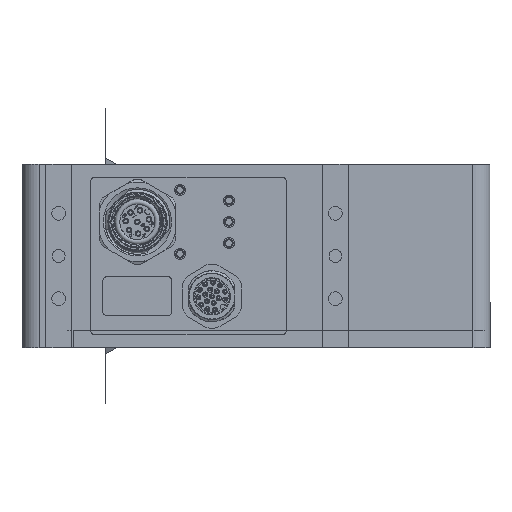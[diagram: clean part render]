
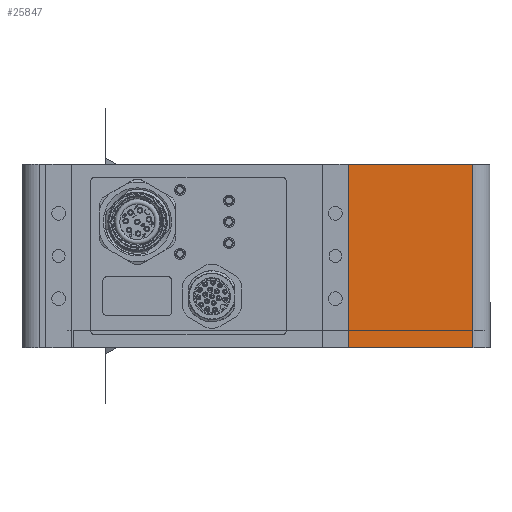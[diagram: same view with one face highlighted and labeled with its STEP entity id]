
A CAD part, front view. The second image highlights one B-rep face of the part: STEP entity #25847.
In plain terms, the highlighted planar face has unit normal (0, -1, 0).
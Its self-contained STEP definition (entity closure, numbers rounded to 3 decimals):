
#2274=FACE_OUTER_BOUND('',#3848,.T.);
#3848=EDGE_LOOP('',(#17600,#17601,#17602,#17603));
#5684=LINE('',#38054,#7764);
#5686=LINE('',#38058,#7766);
#5687=LINE('',#38060,#7767);
#5688=LINE('',#38061,#7768);
#7764=VECTOR('',#30615,10.);
#7766=VECTOR('',#30619,10.);
#7767=VECTOR('',#30620,10.);
#7768=VECTOR('',#30621,10.);
#11136=VERTEX_POINT('',#38051);
#11137=VERTEX_POINT('',#38053);
#11138=VERTEX_POINT('',#38057);
#11139=VERTEX_POINT('',#38059);
#13711=EDGE_CURVE('',#11137,#11136,#5684,.T.);
#13713=EDGE_CURVE('',#11138,#11136,#5686,.T.);
#13714=EDGE_CURVE('',#11139,#11138,#5687,.T.);
#13715=EDGE_CURVE('',#11139,#11137,#5688,.T.);
#17600=ORIENTED_EDGE('',*,*,#13711,.T.);
#17601=ORIENTED_EDGE('',*,*,#13713,.F.);
#17602=ORIENTED_EDGE('',*,*,#13714,.F.);
#17603=ORIENTED_EDGE('',*,*,#13715,.T.);
#25124=PLANE('',#27772);
#25847=ADVANCED_FACE('',(#2274),#25124,.T.);
#27772=AXIS2_PLACEMENT_3D('',#38056,#30617,#30618);
#30615=DIRECTION('',(0.,0.,-1.));
#30617=DIRECTION('center_axis',(0.,-1.,0.));
#30618=DIRECTION('ref_axis',(-1.,0.,0.));
#30619=DIRECTION('',(-1.,0.,0.));
#30620=DIRECTION('',(0.,0.,-1.));
#30621=DIRECTION('',(-1.,0.,0.));
#38051=CARTESIAN_POINT('',(76.5,0.,-43.));
#38053=CARTESIAN_POINT('',(76.5,0.,0.));
#38054=CARTESIAN_POINT('',(76.5,0.,0.));
#38056=CARTESIAN_POINT('Origin',(109.8,0.,0.));
#38057=CARTESIAN_POINT('',(105.8,0.,-43.));
#38058=CARTESIAN_POINT('',(109.8,0.,-43.));
#38059=CARTESIAN_POINT('',(105.8,0.,0.));
#38060=CARTESIAN_POINT('',(105.8,0.,0.));
#38061=CARTESIAN_POINT('',(109.8,0.,0.));
